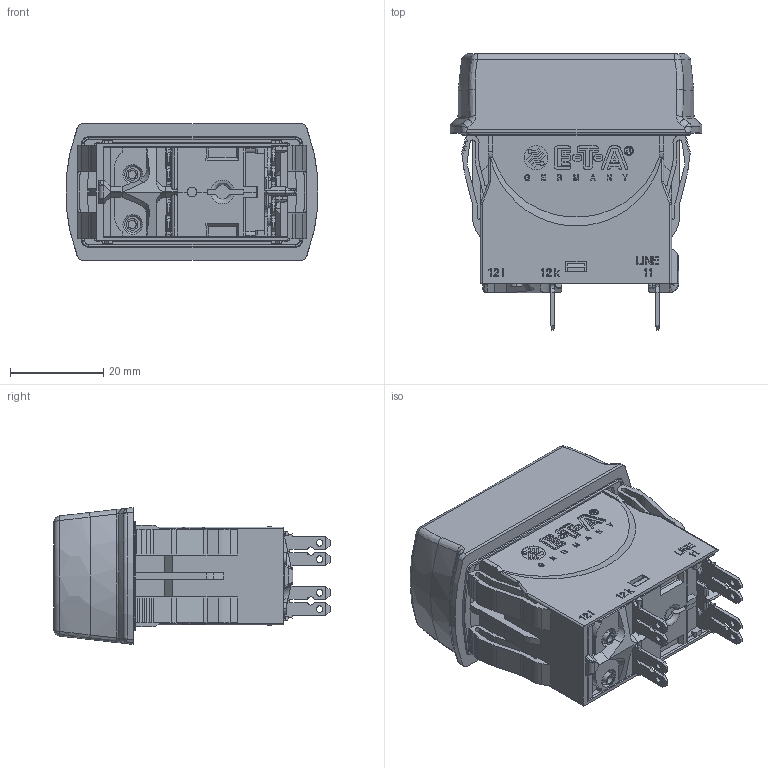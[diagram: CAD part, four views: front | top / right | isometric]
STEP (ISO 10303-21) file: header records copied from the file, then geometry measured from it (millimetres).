
FILE_DESCRIPTION((''),'2;1');
FILE_NAME('DUMMY-3120-N52V-P7','2019-08-06T11:16:24',('wschmidt'),(''),'CREO PARAMETRIC BY PTC INC, 2017260','CREO PARAMETRIC BY PTC INC, 2017260','');
FILE_SCHEMA(('AUTOMOTIVE_DESIGN { 1 0 10303 214 1 1 1 1 }'));
Products named in the file (1): DUMMY-3120-N52V-P7
Bounding box: 54 x 59.3 x 29.2 mm (x, y, z)
Volume: 34610.2 mm3; surface area: 23999.5 mm2
Topology: 1 solids, 1 shells, 1974 faces, 5418 edges, 3523 vertices
Faces by surface type: plane 1131, cylinder 330, extrusion 306, bspline 137, torus 40, cone 22, sphere 8
Entity records: 75279 total; most frequent: CARTESIAN_POINT 26935, ORIENTED_EDGE 10834, DIRECTION 8208, EDGE_CURVE 5417, VECTOR 3932, LINE 3626, VERTEX_POINT 3523, AXIS2_PLACEMENT_3D 2138
